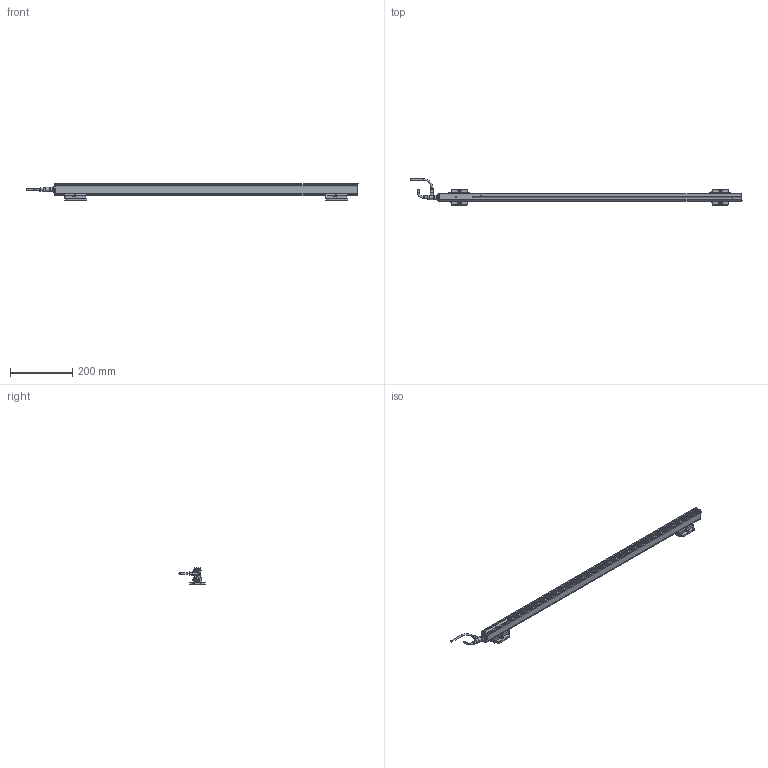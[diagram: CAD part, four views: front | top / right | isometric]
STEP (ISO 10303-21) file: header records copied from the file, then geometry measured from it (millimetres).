
FILE_DESCRIPTION(('Bauteilbeschreibung','HiCAD-Model','HiCAD-STEP-TRANSLATION','Bauteilbeschreibung'),'2;1');
FILE_NAME('PERFORMAXEASY_810-990_3D.STP','2014-07-03T16:23:40+00:00',('Konstrukteur'),('Konstrukteur Firma GmbH'),' HiCAD 2011, Step 1600.0 ','HiCAD 2011','confidential');
FILE_SCHEMA(('AUTOMOTIVE_DESIGN { 1 2 10303 214 0 1 1 1 }'));
Products named in the file (34): PERFORMAXEASY_810_990_3D; A_PERFORMAX EASY SPEED 810_990; A_END CAP; A0END0CAP; A_PIN; A0PIN; A_PROFILE; A_POTTING; A_LED; A519020315_CONNECTOR APPLIANCE; A_INSERT; A_CONTACTS; A_HOUSING; A_CONNECTOR STRAIGHT; EXTRUDED SOLID_0; DRAAD GEBOGEN; REVOLVED SOLID_1; REVOLVED SOLID_3; A_CONNECTOR ANGLED; REVOLVED0SOLID01; EXTRUDED0SOLID00; C_EDGE SWEEP_0; REVOLVED SOLID_2; REVOLVED0SOLID03; A532000100_MOUNTING BRACKET BA; A_SIDE PIECE; A0SIDE0PIECE; A_SLIDE PIECE; A_BRACKET SMALL; A5320001000MOUNTING0BRACKET0BA; A0SIDE0PIECE0; A0SIDE0PIECE1; A0SLIDE0PIECE; A0BRACKET0SMALL
Assembly tree (33 placements, depth 4):
  PERFORMAXEASY_810_990_3D
    A_PERFORMAX EASY SPEED 810_990
      A_END CAP
      A0END0CAP
      A_PIN
      A0PIN
      A_PROFILE
      A_POTTING
      A_LED
      A519020315_CONNECTOR APPLIANCE
        A_INSERT
        A_CONTACTS
        A_HOUSING
      A_CONNECTOR STRAIGHT
        EXTRUDED SOLID_0
        DRAAD GEBOGEN
        REVOLVED SOLID_1
        REVOLVED SOLID_3
      A_CONNECTOR ANGLED
        REVOLVED0SOLID01
        EXTRUDED0SOLID00
        C_EDGE SWEEP_0
        REVOLVED SOLID_2
        REVOLVED0SOLID03
      A532000100_MOUNTING BRACKET BA
        A_SIDE PIECE
        A0SIDE0PIECE
        A_SLIDE PIECE
        A_BRACKET SMALL
      A5320001000MOUNTING0BRACKET0BA
        A0SIDE0PIECE0
        A0SIDE0PIECE1
        A0SLIDE0PIECE
        A0BRACKET0SMALL
Bounding box: 1068.57 x 84.25 x 52.3 mm (x, y, z)
Volume: 733138.5 mm3; surface area: 241564.9 mm2
Topology: 32 solids, 38 shells, 1579 faces, 3946 edges, 2370 vertices
Faces by surface type: cylinder 682, plane 629, torus 102, sphere 78, bspline 64, cone 24
Full cylindrical faces by diameter (mm): 0.8 x10, 1 x5, 1.48 x2, 2.661 x1, 3 x8, 4.2 x2, 5 x4, 5.5 x10, 8 x2, 8.2 x1, 8.4 x2, 8.945 x1, 9 x2, 10.2 x1, 10.5 x3, 11 x1, 12 x3, 12.8 x1, 13.8 x4, 14.5 x3
Entity records: 70499 total; most frequent: CARTESIAN_POINT 15344, DIRECTION 7878, ORIENTED_EDGE 7410, EDGE_CURVE 3705, COLOUR_RGB 3546, PRESENTATION_STYLE_ASSIGNMENT 3546, OVER_RIDING_STYLED_ITEM 3519, CURVE_STYLE 3509
